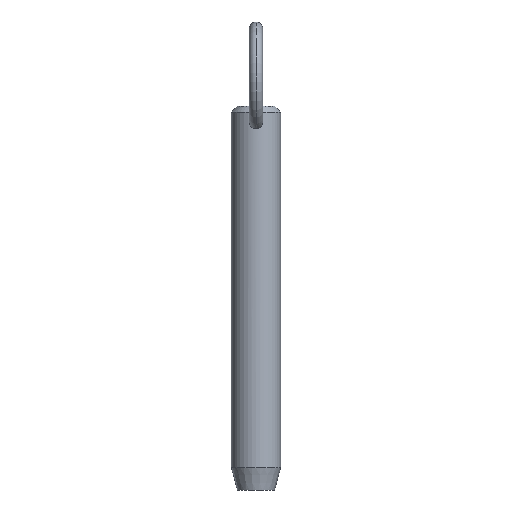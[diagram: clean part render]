
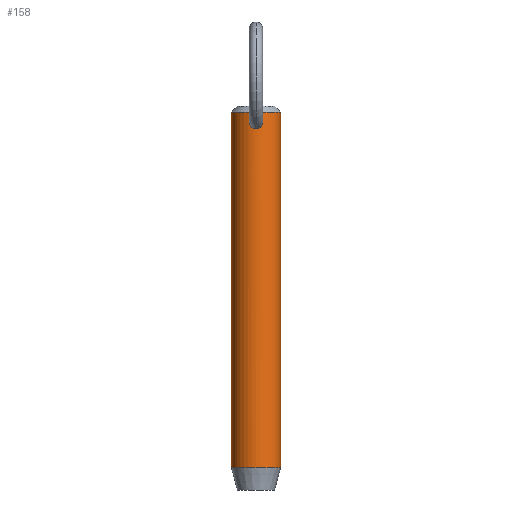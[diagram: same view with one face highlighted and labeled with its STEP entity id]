
A CAD part, front view. The second image highlights one B-rep face of the part: STEP entity #158.
In plain terms, the highlighted cylindrical face has radius 5.55 mm (diameter 11.1 mm), a partial arc.
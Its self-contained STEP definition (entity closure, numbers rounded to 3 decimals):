
#4 = LINE ( 'NONE', #52, #20 ) ;
#5 = VERTEX_POINT ( 'NONE', #285 ) ;
#11 = VERTEX_POINT ( 'NONE', #40 ) ;
#14 = DIRECTION ( 'NONE',  ( 1., 0., 0. ) ) ;
#16 = CARTESIAN_POINT ( 'NONE',  ( -5.55, 0., -9.2 ) ) ;
#18 = AXIS2_PLACEMENT_3D ( 'NONE', #130, #389, #14 ) ;
#19 = CARTESIAN_POINT ( 'NONE',  ( 0.106, -5.55, 70.745 ) ) ;
#20 = VECTOR ( 'NONE', #175, 1000. ) ;
#21 = CARTESIAN_POINT ( 'NONE',  ( 0.977, -5.464, 67.632 ) ) ;
#24 = CARTESIAN_POINT ( 'NONE',  ( 1.194, -5.422, 69.971 ) ) ;
#31 = CARTESIAN_POINT ( 'NONE',  ( -0.523, -5.526, 67.366 ) ) ;
#40 = CARTESIAN_POINT ( 'NONE',  ( 0., -5.55, 67.277 ) ) ;
#52 = CARTESIAN_POINT ( 'NONE',  ( -5.55, 0., 66. ) ) ;
#56 = ORIENTED_EDGE ( 'NONE', *, *, #99, .T. ) ;
#57 = CARTESIAN_POINT ( 'NONE',  ( 0.417, -5.535, 70.667 ) ) ;
#60 = CARTESIAN_POINT ( 'NONE',  ( 1.486, -5.347, 69.174 ) ) ;
#66 = CARTESIAN_POINT ( 'NONE',  ( 0.214, -5.547, 70.728 ) ) ;
#68 = CARTESIAN_POINT ( 'NONE',  ( -1.294, -5.398, 69.786 ) ) ;
#73 = CARTESIAN_POINT ( 'NONE',  ( -0.42, -5.535, 67.332 ) ) ;
#74 = DIRECTION ( 'NONE',  ( -1., 0., 0. ) ) ;
#76 = EDGE_LOOP ( 'NONE', ( #196, #228 ) ) ;
#82 = VERTEX_POINT ( 'NONE', #433 ) ;
#99 = EDGE_CURVE ( 'NONE', #274, #5, #481, .T. ) ;
#101 = CYLINDRICAL_SURFACE ( 'NONE', #383, 5.55 ) ;
#106 = CARTESIAN_POINT ( 'NONE',  ( 1.5, -5.343, 68.754 ) ) ;
#108 = CIRCLE ( 'NONE', #445, 5.55 ) ;
#110 = CARTESIAN_POINT ( 'NONE',  ( -0.416, -5.535, 70.667 ) ) ;
#112 = CARTESIAN_POINT ( 'NONE',  ( -0.976, -5.464, 67.631 ) ) ;
#130 = CARTESIAN_POINT ( 'NONE',  ( 0., 0., 71.05 ) ) ;
#137 = VERTEX_POINT ( 'NONE', #291 ) ;
#140 = CARTESIAN_POINT ( 'NONE',  ( -0.716, -5.504, 67.452 ) ) ;
#145 = CARTESIAN_POINT ( 'NONE',  ( -1.5, -5.343, 68.753 ) ) ;
#158 = ADVANCED_FACE ( 'NONE', ( #199, #499 ), #101, .T. ) ;
#161 = ORIENTED_EDGE ( 'NONE', *, *, #282, .F. ) ;
#174 = CARTESIAN_POINT ( 'NONE',  ( 0.716, -5.504, 67.452 ) ) ;
#175 = DIRECTION ( 'NONE',  ( 0., 0., -1. ) ) ;
#178 = ORIENTED_EDGE ( 'NONE', *, *, #497, .T. ) ;
#180 = CARTESIAN_POINT ( 'NONE',  ( 0., -5.55, 67.277 ) ) ;
#184 = CARTESIAN_POINT ( 'NONE',  ( -1.054, -5.449, 67.704 ) ) ;
#186 = CARTESIAN_POINT ( 'NONE',  ( -0.211, -5.547, 70.729 ) ) ;
#194 = B_SPLINE_CURVE_WITH_KNOTS ( 'NONE', 3,
 ( #180, #233, #369, #73, #31, #140, #373, #112, #184, #320, #412, #449, #520, #145, #366, #411, #317, #68, #521, #485, #443, #407, #110, #186, #230, #441 ),
 .UNSPECIFIED., .F., .F.,
 ( 4, 2, 2, 2, 2, 2, 2, 2, 2, 2, 2, 2, 4 ),
 ( 0.01, 0.01, 0.01, 0.011, 0.011, 0.012, 0.012, 0.012, 0.013, 0.013, 0.014, 0.014, 0.015 ),
 .UNSPECIFIED. ) ;
#196 = ORIENTED_EDGE ( 'NONE', *, *, #211, .T. ) ;
#199 = FACE_OUTER_BOUND ( 'NONE', #458, .T. ) ;
#211 = EDGE_CURVE ( 'NONE', #137, #11, #234, .T. ) ;
#212 = CARTESIAN_POINT ( 'NONE',  ( 0.107, -5.55, 67.277 ) ) ;
#220 = CARTESIAN_POINT ( 'NONE',  ( 1.055, -5.449, 67.705 ) ) ;
#223 = CARTESIAN_POINT ( 'NONE',  ( 0., -5.55, 70.745 ) ) ;
#228 = ORIENTED_EDGE ( 'NONE', *, *, #235, .T. ) ;
#230 = CARTESIAN_POINT ( 'NONE',  ( -0.106, -5.55, 70.745 ) ) ;
#233 = CARTESIAN_POINT ( 'NONE',  ( -0.107, -5.55, 67.277 ) ) ;
#234 = B_SPLINE_CURVE_WITH_KNOTS ( 'NONE', 3,
 ( #223, #19, #66, #57, #510, #405, #400, #24, #266, #401, #60, #265, #106, #360, #479, #438, #357, #220, #21, #474, #174, #480, #404, #309, #212, #259 ),
 .UNSPECIFIED., .F., .F.,
 ( 4, 2, 2, 2, 2, 2, 2, 2, 2, 2, 2, 2, 4 ),
 ( 0.005, 0.005, 0.005, 0.006, 0.006, 0.007, 0.007, 0.008, 0.008, 0.009, 0.009, 0.009, 0.01 ),
 .UNSPECIFIED. ) ;
#235 = EDGE_CURVE ( 'NONE', #11, #137, #194, .T. ) ;
#241 = VERTEX_POINT ( 'NONE', #16 ) ;
#259 = CARTESIAN_POINT ( 'NONE',  ( 0., -5.55, 67.277 ) ) ;
#265 = CARTESIAN_POINT ( 'NONE',  ( 1.503, -5.343, 68.859 ) ) ;
#266 = CARTESIAN_POINT ( 'NONE',  ( 1.295, -5.397, 69.782 ) ) ;
#274 = VERTEX_POINT ( 'NONE', #484 ) ;
#275 = EDGE_CURVE ( 'NONE', #241, #82, #108, .T. ) ;
#282 = EDGE_CURVE ( 'NONE', #274, #82, #362, .T. ) ;
#285 = CARTESIAN_POINT ( 'NONE',  ( -5.55, 0., 71.05 ) ) ;
#287 = ORIENTED_EDGE ( 'NONE', *, *, #275, .T. ) ;
#291 = CARTESIAN_POINT ( 'NONE',  ( 0., -5.55, 70.745 ) ) ;
#309 = CARTESIAN_POINT ( 'NONE',  ( 0.213, -5.547, 67.288 ) ) ;
#317 = CARTESIAN_POINT ( 'NONE',  ( -1.44, -5.36, 69.387 ) ) ;
#320 = CARTESIAN_POINT ( 'NONE',  ( -1.26, -5.407, 67.942 ) ) ;
#325 = DIRECTION ( 'NONE',  ( 0., 0., 1. ) ) ;
#339 = CARTESIAN_POINT ( 'NONE',  ( 0., 0., 66. ) ) ;
#357 = CARTESIAN_POINT ( 'NONE',  ( 1.26, -5.407, 67.943 ) ) ;
#360 = CARTESIAN_POINT ( 'NONE',  ( 1.477, -5.35, 68.544 ) ) ;
#362 = LINE ( 'NONE', #517, #431 ) ;
#366 = CARTESIAN_POINT ( 'NONE',  ( -1.503, -5.343, 68.859 ) ) ;
#369 = CARTESIAN_POINT ( 'NONE',  ( -0.212, -5.547, 67.288 ) ) ;
#373 = CARTESIAN_POINT ( 'NONE',  ( -0.807, -5.492, 67.505 ) ) ;
#383 = AXIS2_PLACEMENT_3D ( 'NONE', #339, #464, #429 ) ;
#389 = DIRECTION ( 'NONE',  ( 0., 0., -1. ) ) ;
#400 = CARTESIAN_POINT ( 'NONE',  ( 0.941, -5.471, 70.307 ) ) ;
#401 = CARTESIAN_POINT ( 'NONE',  ( 1.44, -5.36, 69.386 ) ) ;
#404 = CARTESIAN_POINT ( 'NONE',  ( 0.421, -5.535, 67.332 ) ) ;
#405 = CARTESIAN_POINT ( 'NONE',  ( 0.786, -5.497, 70.457 ) ) ;
#407 = CARTESIAN_POINT ( 'NONE',  ( -0.513, -5.527, 70.623 ) ) ;
#411 = CARTESIAN_POINT ( 'NONE',  ( -1.485, -5.348, 69.179 ) ) ;
#412 = CARTESIAN_POINT ( 'NONE',  ( -1.362, -5.381, 68.132 ) ) ;
#429 = DIRECTION ( 'NONE',  ( -1., 0., 0. ) ) ;
#431 = VECTOR ( 'NONE', #523, 1000. ) ;
#433 = CARTESIAN_POINT ( 'NONE',  ( 5.55, 0., -9.2 ) ) ;
#438 = CARTESIAN_POINT ( 'NONE',  ( 1.363, -5.38, 68.134 ) ) ;
#441 = CARTESIAN_POINT ( 'NONE',  ( 0., -5.55, 70.745 ) ) ;
#443 = CARTESIAN_POINT ( 'NONE',  ( -0.785, -5.497, 70.458 ) ) ;
#445 = AXIS2_PLACEMENT_3D ( 'NONE', #491, #325, #74 ) ;
#449 = CARTESIAN_POINT ( 'NONE',  ( -1.455, -5.356, 68.436 ) ) ;
#458 = EDGE_LOOP ( 'NONE', ( #161, #56, #178, #287 ) ) ;
#464 = DIRECTION ( 'NONE',  ( 0., 0., -1. ) ) ;
#474 = CARTESIAN_POINT ( 'NONE',  ( 0.807, -5.492, 67.506 ) ) ;
#479 = CARTESIAN_POINT ( 'NONE',  ( 1.455, -5.356, 68.438 ) ) ;
#480 = CARTESIAN_POINT ( 'NONE',  ( 0.523, -5.526, 67.366 ) ) ;
#481 = CIRCLE ( 'NONE', #18, 5.55 ) ;
#484 = CARTESIAN_POINT ( 'NONE',  ( 5.55, 0., 71.05 ) ) ;
#485 = CARTESIAN_POINT ( 'NONE',  ( -0.939, -5.472, 70.31 ) ) ;
#491 = CARTESIAN_POINT ( 'NONE',  ( 0., 0., -9.2 ) ) ;
#497 = EDGE_CURVE ( 'NONE', #5, #241, #4, .T. ) ;
#499 = FACE_BOUND ( 'NONE', #76, .T. ) ;
#510 = CARTESIAN_POINT ( 'NONE',  ( 0.515, -5.527, 70.622 ) ) ;
#517 = CARTESIAN_POINT ( 'NONE',  ( 5.55, 0., 66. ) ) ;
#520 = CARTESIAN_POINT ( 'NONE',  ( -1.477, -5.35, 68.542 ) ) ;
#521 = CARTESIAN_POINT ( 'NONE',  ( -1.195, -5.421, 69.971 ) ) ;
#523 = DIRECTION ( 'NONE',  ( 0., 0., -1. ) ) ;
